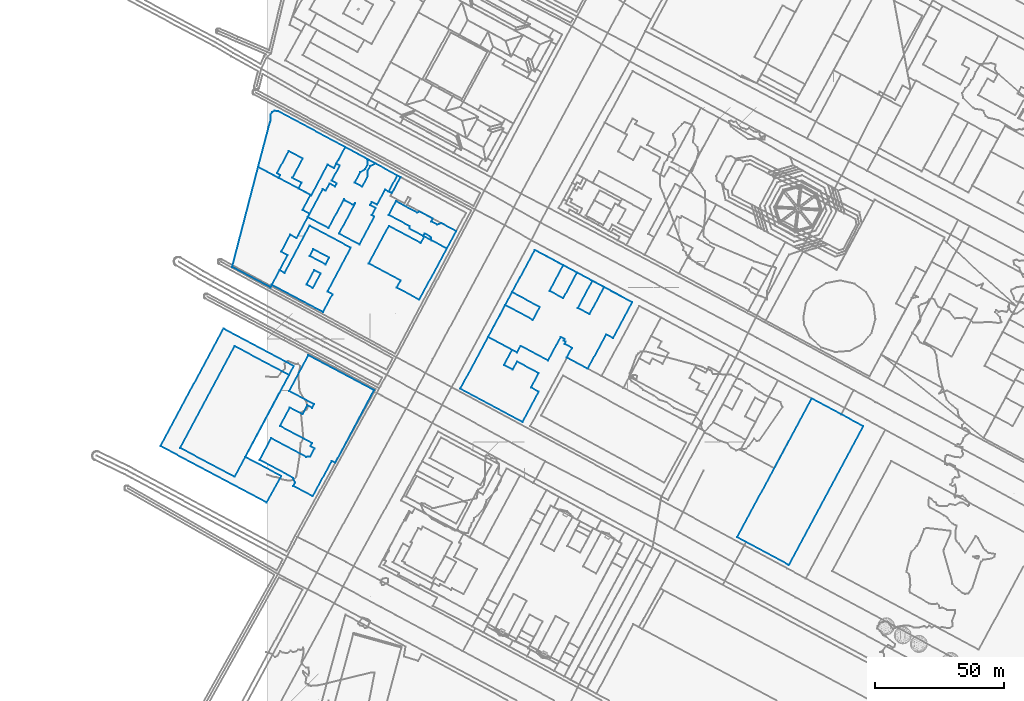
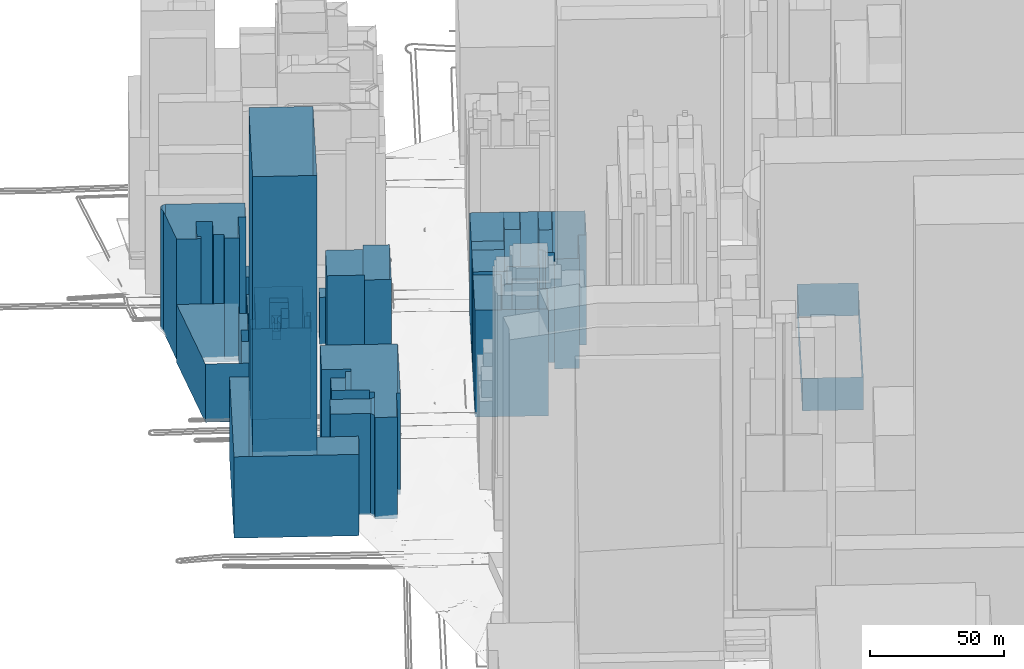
# Not in any storey, part 23 of 80: 17 walls.
"""IFC4 building model written with IfcOpenShell, lengths in metres."""

from ifc_helpers import new_model, si_unit, frame, origin_with_axes, place, context, subcontext, project, spatial, polygons, element, save


model = new_model("IFC4")

# Units and contexts
model_context = context("Model", 3, precision=1e-05, world=origin_with_axes())
body_context = subcontext(model_context, "Body", "Model", "MODEL_VIEW")
ifc_project = project(units=[si_unit("AREAUNIT", "SQUARE_METRE"), si_unit("LENGTHUNIT", "METRE")], contexts=[model_context])

# Sites, building
site_1_placement = place(None, origin_with_axes())
site_1 = spatial("IfcSite", under=ifc_project, at=site_1_placement, Name="Topoexport Site")
site_2_placement = place(site_1_placement, origin_with_axes())
site_2 = spatial("IfcSite", under=site_1, at=site_2_placement, Name="TPX_BATIMENTS")
building_1_placement = place(site_2_placement, frame((182.6039745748, 162.5591833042, 20.6927717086), z_axis=(0.0, 0.0, 1.0), x_axis=(1.0, 0.0, 0.0)))
building_1 = spatial("IfcBuilding", under=site_2, at=building_1_placement, Name="Batiment 42", CompositionType="ELEMENT")

# Wall
wall_1_placement = place(None, frame((182.6039745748, 162.5591833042, 20.6927717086), z_axis=(0.0, 0.0, 1.0), x_axis=(1.0, 0.0, 0.0)))
element("IfcWall", 1, at=wall_1_placement, inside=building_1, Name="Mur 0", context=body_context, shape_type="Tessellation", body=[
    polygons([(0.0, 0.0, 0.0), (20.0810169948, -10.7688576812, 0.0), (48.9829273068, 43.1023540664, 0.0), (28.9020091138, 53.8711326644, 0.0), (0.0, 0.0, 14.8999996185), (20.0810169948, -10.7688576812, 14.8999996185), (48.9829273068, 43.1023540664, 14.8999996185), (28.9020091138, 53.8711326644, 14.8999996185)], [[[6, 5, 2]], [[2, 5, 1]], [[7, 6, 3]], [[3, 6, 2]], [[5, 8, 1]], [[1, 8, 4]], [[8, 7, 4]], [[4, 7, 3]]]),
])

# Building
building_2_placement = place(site_2_placement, frame((85.8984085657, 240.2837612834, 20.6241127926), z_axis=(0.0, 0.0, 1.0), x_axis=(1.0, 0.0, 0.0)))
building_2 = spatial("IfcBuilding", under=site_2, at=building_2_placement, Name="Batiment 76", CompositionType="ELEMENT")

# Wall
wall_2_placement = place(None, frame((85.8984085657, 240.2837612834, 20.6241127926), z_axis=(0.0, 0.0, 1.0), x_axis=(1.0, 0.0, 0.0)))
element("IfcWall", 2, at=wall_2_placement, inside=building_2, Name="Mur 0", context=body_context, shape_type="Tessellation", body=[
    polygons([(0.0, 0.0, 0.0), (11.2465195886, -6.0311397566, 0.0), (12.6512037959, -3.4168984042, 0.0), (23.2861681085, -9.1220554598, 0.0), (28.2024169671, 0.0388994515, 0.0), (29.7229034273, -0.776106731, 0.0), (29.3592670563, -1.4464661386, 0.0), (30.1152258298, -1.848467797, 0.0), (29.6773030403, -2.6640194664, 0.0), (32.5654494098, -4.2180905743, 0.0), (30.5658357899, -7.9383700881, 0.0), (38.6867515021, -12.3182352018, 0.0), (45.8336301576, 1.0208901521, 0.0), (48.5348020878, -0.4243246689, 0.0), (55.9958034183, 13.4846763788, 0.0), (18.1278687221, 33.8059517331, 0.0), (0.0, 0.0, 50.0), (11.2465195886, -6.0311397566, 50.0), (12.6512037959, -3.4168984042, 50.0), (23.2861681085, -9.1220554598, 50.0), (28.2024169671, 0.0388994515, 50.0), (29.7229034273, -0.776106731, 50.0), (29.3592670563, -1.4464661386, 50.0), (30.1152258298, -1.848467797, 50.0), (29.6773030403, -2.6640194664, 50.0), (32.5654494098, -4.2180905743, 50.0), (30.5658357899, -7.9383700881, 50.0), (38.6867515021, -12.3182352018, 50.0), (45.8336301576, 1.0208901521, 50.0), (48.5348020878, -0.4243246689, 50.0), (55.9958034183, 13.4846763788, 50.0), (18.1278687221, 33.8059517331, 50.0)], [[[18, 17, 2]], [[2, 17, 1]], [[19, 18, 3]], [[3, 18, 2]], [[20, 19, 4]], [[4, 19, 3]], [[21, 20, 5]], [[5, 20, 4]], [[22, 21, 6]], [[6, 21, 5]], [[23, 22, 7]], [[7, 22, 6]], [[24, 23, 8]], [[8, 23, 7]], [[25, 24, 9]], [[9, 24, 8]], [[26, 25, 10]], [[10, 25, 9]], [[27, 26, 11]], [[11, 26, 10]], [[28, 27, 12]], [[12, 27, 11]], [[29, 28, 13]], [[13, 28, 12]], [[30, 29, 14]], [[14, 29, 13]], [[31, 30, 15]], [[15, 30, 14]], [[17, 32, 1]], [[1, 32, 16]], [[32, 31, 16]], [[16, 31, 15]]]),
])

# Building
building_3_placement = place(site_2_placement, frame((85.8984085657, 240.2837612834, 20.6241127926), z_axis=(0.0, 0.0, 1.0), x_axis=(1.0, 0.0, 0.0)))
building_3 = spatial("IfcBuilding", under=site_2, at=building_3_placement, Name="Batiment 77", CompositionType="ELEMENT")

# Wall
wall_3_placement = place(None, frame((85.8984085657, 240.2837612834, 20.6241127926), z_axis=(0.0, 0.0, 1.0), x_axis=(1.0, 0.0, 0.0)))
element("IfcWall", 3, at=wall_3_placement, inside=building_3, Name="Mur 0", context=body_context, shape_type="Tessellation", body=[
    polygons([(0.0, 0.0, 0.0), (11.2465195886, -6.0311397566, 0.0), (12.6512037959, -3.4168984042, 0.0), (23.2861681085, -9.1220554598, 0.0), (28.2024169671, 0.0388994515, 0.0), (29.7229034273, -0.776106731, 0.0), (29.3592670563, -1.4464661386, 0.0), (30.1152258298, -1.848467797, 0.0), (29.6773030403, -2.6640194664, 0.0), (32.5654494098, -4.2180905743, 0.0), (30.5658357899, -7.9383700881, 0.0), (38.6867515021, -12.3182352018, 0.0), (45.8336301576, 1.0208901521, 0.0), (48.5348020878, -0.4243246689, 0.0), (55.9958034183, 13.4846763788, 0.0), (45.0379209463, 19.3747728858, 0.0), (39.3945655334, 8.8619853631, 0.0), (34.8585594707, 11.2961922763, 0.0), (40.5020482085, 21.7978755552, 0.0), (34.5220457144, 25.003566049, 0.0), (29.1928346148, 15.0606509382, 0.0), (23.8498507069, 17.92958022, 0.0), (29.1875069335, 27.8725894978, 0.0), (18.1278687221, 33.8059517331, 0.0), (9.3283721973, 17.3945398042, 0.0), (20.0566635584, 11.6460536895, 0.0), (17.387953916, 6.6634513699, 0.0), (6.6595287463, 12.4230421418, 0.0), (0.0, 0.0, 50.0), (11.2465195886, -6.0311397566, 50.0), (12.6512037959, -3.4168984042, 50.0), (23.2861681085, -9.1220554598, 50.0), (28.2024169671, 0.0388994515, 50.0), (29.7229034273, -0.776106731, 50.0), (29.3592670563, -1.4464661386, 50.0), (30.1152258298, -1.848467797, 50.0), (29.6773030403, -2.6640194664, 50.0), (32.5654494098, -4.2180905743, 50.0), (30.5658357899, -7.9383700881, 50.0), (38.6867515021, -12.3182352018, 50.0), (45.8336301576, 1.0208901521, 50.0), (48.5348020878, -0.4243246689, 50.0), (55.9958034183, 13.4846763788, 50.0), (45.0379209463, 19.3747728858, 50.0), (39.3945655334, 8.8619853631, 50.0), (34.8585594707, 11.2961922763, 50.0), (40.5020482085, 21.7978755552, 50.0), (34.5220457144, 25.003566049, 50.0), (29.1928346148, 15.0606509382, 50.0), (23.8498507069, 17.92958022, 50.0), (29.1875069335, 27.8725894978, 50.0), (18.1278687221, 33.8059517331, 50.0), (9.3283721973, 17.3945398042, 50.0), (20.0566635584, 11.6460536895, 50.0), (17.387953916, 6.6634513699, 50.0), (6.6595287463, 12.4230421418, 50.0)], [[[30, 29, 2]], [[2, 29, 1]], [[31, 30, 3]], [[3, 30, 2]], [[32, 31, 4]], [[4, 31, 3]], [[33, 32, 5]], [[5, 32, 4]], [[34, 33, 6]], [[6, 33, 5]], [[35, 34, 7]], [[7, 34, 6]], [[36, 35, 8]], [[8, 35, 7]], [[37, 36, 9]], [[9, 36, 8]], [[38, 37, 10]], [[10, 37, 9]], [[39, 38, 11]], [[11, 38, 10]], [[40, 39, 12]], [[12, 39, 11]], [[41, 40, 13]], [[13, 40, 12]], [[42, 41, 14]], [[14, 41, 13]], [[43, 42, 15]], [[15, 42, 14]], [[44, 43, 16]], [[16, 43, 15]], [[45, 44, 17]], [[17, 44, 16]], [[46, 45, 18]], [[18, 45, 17]], [[47, 46, 19]], [[19, 46, 18]], [[48, 47, 20]], [[20, 47, 19]], [[49, 48, 21]], [[21, 48, 20]], [[50, 49, 22]], [[22, 49, 21]], [[51, 50, 23]], [[23, 50, 22]], [[52, 51, 24]], [[24, 51, 23]], [[53, 52, 25]], [[25, 52, 24]], [[54, 53, 26]], [[26, 53, 25]], [[55, 54, 27]], [[27, 54, 26]], [[29, 56, 1]], [[1, 56, 28]], [[56, 55, 28]], [[28, 55, 27]]]),
])

# Building
building_4_placement = place(site_2_placement, frame((-13.4692579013, 267.507853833, 20.5235292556), z_axis=(0.0, 0.0, 1.0), x_axis=(1.0, 0.0, 0.0)))
building_4 = spatial("IfcBuilding", under=site_2, at=building_4_placement, Name="Batiment 154", CompositionType="ELEMENT")

# Wall
wall_4_placement = place(None, frame((-13.4692579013, 267.507853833, 20.5235292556), z_axis=(0.0, 0.0, 1.0), x_axis=(1.0, 0.0, 0.0)))
element("IfcWall", 4, at=wall_4_placement, inside=building_4, Name="Mur 0", context=body_context, shape_type="Tessellation", body=[
    polygons([(0.0, 0.0, 0.0), (14.8729310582, -7.9321108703, 0.0), (21.5236253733, 4.535158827, 0.0), (19.0179048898, 5.871663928, 0.0), (22.5456521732, 12.4851249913, 0.0), (25.0429308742, 11.1485231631, 0.0), (30.1073251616, 20.644198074, 0.0), (27.3212769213, 22.1328790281, 0.0), (30.4109499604, 27.9418994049, 0.0), (10.0850586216, 38.7750178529, 0.0), (0.0, 0.0, 26.5), (14.8729310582, -7.9321108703, 26.5), (21.5236253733, 4.535158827, 26.5), (19.0179048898, 5.871663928, 26.5), (22.5456521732, 12.4851249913, 26.5), (25.0429308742, 11.1485231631, 26.5), (30.1073251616, 20.644198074, 26.5), (27.3212769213, 22.1328790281, 26.5), (30.4109499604, 27.9418994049, 26.5), (10.0850586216, 38.7750178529, 26.5)], [[[12, 11, 2]], [[2, 11, 1]], [[13, 12, 3]], [[3, 12, 2]], [[14, 13, 4]], [[4, 13, 3]], [[15, 14, 5]], [[5, 14, 4]], [[16, 15, 6]], [[6, 15, 5]], [[17, 16, 7]], [[7, 16, 6]], [[18, 17, 8]], [[8, 17, 7]], [[19, 18, 9]], [[9, 18, 8]], [[11, 20, 1]], [[1, 20, 10]], [[20, 19, 10]], [[10, 19, 9]]]),
])

# Building
building_5_placement = place(site_2_placement, frame((-3.3841992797, 306.2828716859, 21.8195391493), z_axis=(0.0, 0.0, 1.0), x_axis=(1.0, 0.0, 0.0)))
building_5 = spatial("IfcBuilding", under=site_2, at=building_5_placement, Name="Batiment 155", CompositionType="ELEMENT")

# Wall
wall_5_placement = place(None, frame((-3.3841992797, 306.2828716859, 21.8195391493), z_axis=(0.0, 0.0, 1.0), x_axis=(1.0, 0.0, 0.0)))
element("IfcWall", 5, at=wall_5_placement, inside=building_5, Name="Mur 0", context=body_context, shape_type="Tessellation", body=[
    polygons([(0.0, 0.0, 0.0), (7.9587232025, -4.2375453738, 0.0), (8.5865292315, -3.0534231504, 0.0), (7.3125093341, -2.3798647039, 0.0), (11.8893541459, 6.2108665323, 0.0), (17.3086069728, 3.3094443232, 0.0), (13.3099607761, -4.1865612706, 0.0), (16.8944091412, -6.0989674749, 0.0), (15.6882811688, -8.366718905, 0.0), (20.6318009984, -11.0072048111, 0.0), (26.9684045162, 0.8791195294, 0.0), (29.4571079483, -0.4464745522, 0.0), (33.8274296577, 7.7532955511, 0.0), (7.7846017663, 21.6841879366, 0.0), (6.347319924, 21.8784555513, 0.0), (5.3911895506, 21.3455570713, 0.0), (4.8705322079, 20.3847231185, 0.0), (4.8038334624, 18.1301925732, 0.0), (0.0, 0.0, 54.9000015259), (7.9587232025, -4.2375453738, 54.9000015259), (8.5865292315, -3.0534231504, 54.9000015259), (7.3125093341, -2.3798647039, 54.9000015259), (11.8893541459, 6.2108665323, 54.9000015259), (17.3086069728, 3.3094443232, 54.9000015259), (13.3099607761, -4.1865612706, 54.9000015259), (16.8944091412, -6.0989674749, 54.9000015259), (15.6882811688, -8.366718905, 54.9000015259), (20.6318009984, -11.0072048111, 54.9000015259), (26.9684045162, 0.8791195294, 54.9000015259), (29.4571079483, -0.4464745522, 54.9000015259), (33.8274296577, 7.7532955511, 54.9000015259), (7.7846017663, 21.6841879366, 54.9000015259), (6.347319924, 21.8784555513, 54.9000015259), (5.3911895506, 21.3455570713, 54.9000015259), (4.8705322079, 20.3847231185, 54.9000015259), (4.8038334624, 18.1301925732, 54.9000015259)], [[[20, 19, 2]], [[2, 19, 1]], [[21, 20, 3]], [[3, 20, 2]], [[22, 21, 4]], [[4, 21, 3]], [[23, 22, 5]], [[5, 22, 4]], [[24, 23, 6]], [[6, 23, 5]], [[25, 24, 7]], [[7, 24, 6]], [[26, 25, 8]], [[8, 25, 7]], [[27, 26, 9]], [[9, 26, 8]], [[28, 27, 10]], [[10, 27, 9]], [[29, 28, 11]], [[11, 28, 10]], [[30, 29, 12]], [[12, 29, 11]], [[31, 30, 13]], [[13, 30, 12]], [[32, 31, 14]], [[14, 31, 13]], [[33, 32, 15]], [[15, 32, 14]], [[34, 33, 16]], [[16, 33, 15]], [[35, 34, 17]], [[17, 34, 16]], [[19, 36, 1]], [[1, 36, 18]], [[36, 35, 18]], [[18, 35, 17]]]),
])

# Building
building_6_placement = place(site_2_placement, frame((47.3240526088, 296.7460494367, 22.6341458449), z_axis=(0.0, 0.0, 1.0), x_axis=(1.0, 0.0, 0.0)))
building_6 = spatial("IfcBuilding", under=site_2, at=building_6_placement, Name="Batiment 156", CompositionType="ELEMENT")

# Wall
wall_6_placement = place(None, frame((47.3240526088, 296.7460494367, 22.6341458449), z_axis=(0.0, 0.0, 1.0), x_axis=(1.0, 0.0, 0.0)))
element("IfcWall", 6, at=wall_6_placement, inside=building_6, Name="Mur 0", context=body_context, shape_type="Tessellation", body=[
    polygons([(0.0, 0.0, 0.0), (1.2145569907, -0.6409345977, 0.0), (4.5862716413, 5.5932606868, 0.0), (3.3375678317, 6.267105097, 0.0), (0.0, 0.0, 4.0), (1.2145569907, -0.6409345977, 4.0), (4.5862716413, 5.5932606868, 4.0), (3.3375678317, 6.267105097, 4.0)], [[[6, 5, 2]], [[2, 5, 1]], [[7, 6, 3]], [[3, 6, 2]], [[5, 8, 1]], [[1, 8, 4]], [[8, 7, 4]], [[4, 7, 3]]]),
])

# Building
building_7_placement = place(site_2_placement, frame((15.9441565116, 286.8450369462, 20.647913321), z_axis=(0.0, 0.0, 1.0), x_axis=(1.0, 0.0, 0.0)))
building_7 = spatial("IfcBuilding", under=site_2, at=building_7_placement, Name="Batiment 157", CompositionType="ELEMENT")

# Wall
wall_7_placement = place(None, frame((15.9441565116, 286.8450369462, 20.647913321), z_axis=(0.0, 0.0, 1.0), x_axis=(1.0, 0.0, 0.0)))
element("IfcWall", 7, at=wall_7_placement, inside=building_7, Name="Mur 0", context=body_context, shape_type="Tessellation", body=[
    polygons([(0.0, 0.0, 0.0), (8.0352328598, -4.2810464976, 0.0), (14.0662474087, 7.0244198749, 0.0), (14.5213100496, 6.363565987, 0.0), (17.3582596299, 4.8532774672, 0.0), (18.4068488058, 5.4205597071, 0.0), (12.0868715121, -6.4433762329, 0.0), (20.0203200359, -10.6811822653, 0.0), (25.8033972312, 0.1662240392, 0.0), (24.7841247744, 0.7095061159, 0.0), (26.2793412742, 3.5246280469, 0.0), (24.1813290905, 4.6438087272, 0.0), (24.8257532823, 5.8503314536, 0.0), (26.8302782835, 4.7855771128, 0.0), (29.9614850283, 10.6506035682, 0.0), (31.3798960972, 9.9010124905, 0.0), (34.717463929, 16.1681175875, 0.0), (14.4990738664, 27.1911302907, 0.0), (11.0539615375, 20.7340482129, 0.0), (12.3874511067, 20.0278770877, 0.0), (9.2563637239, 14.1517573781, 0.0), (11.2354346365, 13.0978057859, 0.0), (10.5910089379, 11.8912842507, 0.0), (8.3996436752, 13.0537949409, 0.0), (6.9042937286, 10.2497774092, 0.0), (5.7830971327, 10.847390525, 0.0), (0.0, 0.0, 27.3999996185), (8.0352328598, -4.2810464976, 27.3999996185), (14.0662474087, 7.0244198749, 27.3999996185), (14.5213100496, 6.363565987, 27.3999996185), (17.3582596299, 4.8532774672, 27.3999996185), (18.4068488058, 5.4205597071, 27.3999996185), (12.0868715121, -6.4433762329, 27.3999996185), (20.0203200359, -10.6811822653, 27.3999996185), (25.8033972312, 0.1662240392, 27.3999996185), (24.7841247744, 0.7095061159, 27.3999996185), (26.2793412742, 3.5246280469, 27.3999996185), (24.1813290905, 4.6438087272, 27.3999996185), (24.8257532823, 5.8503314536, 27.3999996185), (26.8302782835, 4.7855771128, 27.3999996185), (29.9614850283, 10.6506035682, 27.3999996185), (31.3798960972, 9.9010124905, 27.3999996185), (34.717463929, 16.1681175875, 27.3999996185), (14.4990738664, 27.1911302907, 27.3999996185), (11.0539615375, 20.7340482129, 27.3999996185), (12.3874511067, 20.0278770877, 27.3999996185), (9.2563637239, 14.1517573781, 27.3999996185), (11.2354346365, 13.0978057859, 27.3999996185), (10.5910089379, 11.8912842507, 27.3999996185), (8.3996436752, 13.0537949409, 27.3999996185), (6.9042937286, 10.2497774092, 27.3999996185), (5.7830971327, 10.847390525, 27.3999996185)], [[[28, 27, 2]], [[2, 27, 1]], [[29, 28, 3]], [[3, 28, 2]], [[30, 29, 4]], [[4, 29, 3]], [[31, 30, 5]], [[5, 30, 4]], [[32, 31, 6]], [[6, 31, 5]], [[33, 32, 7]], [[7, 32, 6]], [[34, 33, 8]], [[8, 33, 7]], [[35, 34, 9]], [[9, 34, 8]], [[36, 35, 10]], [[10, 35, 9]], [[37, 36, 11]], [[11, 36, 10]], [[38, 37, 12]], [[12, 37, 11]], [[39, 38, 13]], [[13, 38, 12]], [[40, 39, 14]], [[14, 39, 13]], [[41, 40, 15]], [[15, 40, 14]], [[42, 41, 16]], [[16, 41, 15]], [[43, 42, 17]], [[17, 42, 16]], [[44, 43, 18]], [[18, 43, 17]], [[45, 44, 19]], [[19, 44, 18]], [[46, 45, 20]], [[20, 45, 19]], [[47, 46, 21]], [[21, 46, 20]], [[48, 47, 22]], [[22, 47, 21]], [[49, 48, 23]], [[23, 48, 22]], [[50, 49, 24]], [[24, 49, 23]], [[51, 50, 25]], [[25, 50, 24]], [[27, 52, 1]], [[1, 52, 26]], [[52, 51, 26]], [[26, 51, 25]]]),
])

# Building
building_8_placement = place(site_2_placement, frame((15.9441565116, 286.8450369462, 20.647913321), z_axis=(0.0, 0.0, 1.0), x_axis=(1.0, 0.0, 0.0)))
building_8 = spatial("IfcBuilding", under=site_2, at=building_8_placement, Name="Batiment 158", CompositionType="ELEMENT")

# Wall
wall_8_placement = place(None, frame((15.9441565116, 286.8450369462, 20.647913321), z_axis=(0.0, 0.0, 1.0), x_axis=(1.0, 0.0, 0.0)))
element("IfcWall", 8, at=wall_8_placement, inside=building_8, Name="Mur 0", context=body_context, shape_type="Tessellation", body=[
    polygons([(0.0, 0.0, 0.0), (8.0352328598, -4.2810464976, 0.0), (14.0662474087, 7.0244198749, 0.0), (14.5213100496, 6.363565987, 0.0), (17.3582596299, 4.8532774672, 0.0), (18.4068488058, 5.4205597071, 0.0), (12.0868715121, -6.4433762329, 0.0), (20.0203200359, -10.6811822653, 0.0), (25.8033972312, 0.1662240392, 0.0), (24.7841247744, 0.7095061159, 0.0), (26.2793412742, 3.5246280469, 0.0), (24.1813290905, 4.6438087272, 0.0), (24.8257532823, 5.8503314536, 0.0), (26.8302782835, 4.7855771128, 0.0), (29.9614850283, 10.6506035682, 0.0), (31.3798960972, 9.9010124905, 0.0), (34.717463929, 16.1681175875, 0.0), (26.2477906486, 20.7882623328, 0.0), (24.2412699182, 19.8434861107, 0.0), (23.2746353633, 18.0337020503, 0.0), (23.2917057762, 15.8356544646, 0.0), (21.13557285, 11.7805123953, 0.0), (18.213707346, 13.3342229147, 0.0), (20.3782815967, 17.3894620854, 0.0), (22.2214757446, 18.5876933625, 0.0), (23.1881104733, 20.3974772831, 0.0), (23.1045489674, 22.5059351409, 0.0), (14.4990738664, 27.1911302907, 0.0), (11.0539615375, 20.7340482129, 0.0), (12.3874511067, 20.0278770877, 0.0), (9.2563637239, 14.1517573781, 0.0), (11.2354346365, 13.0978057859, 0.0), (10.5910089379, 11.8912842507, 0.0), (8.3996436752, 13.0537949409, 0.0), (6.9042937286, 10.2497774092, 0.0), (5.7830971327, 10.847390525, 0.0), (0.0, 0.0, 27.3999996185), (8.0352328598, -4.2810464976, 27.3999996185), (14.0662474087, 7.0244198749, 27.3999996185), (14.5213100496, 6.363565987, 27.3999996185), (17.3582596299, 4.8532774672, 27.3999996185), (18.4068488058, 5.4205597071, 27.3999996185), (12.0868715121, -6.4433762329, 27.3999996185), (20.0203200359, -10.6811822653, 27.3999996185), (25.8033972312, 0.1662240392, 27.3999996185), (24.7841247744, 0.7095061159, 27.3999996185), (26.2793412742, 3.5246280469, 27.3999996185), (24.1813290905, 4.6438087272, 27.3999996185), (24.8257532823, 5.8503314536, 27.3999996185), (26.8302782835, 4.7855771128, 27.3999996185), (29.9614850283, 10.6506035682, 27.3999996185), (31.3798960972, 9.9010124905, 27.3999996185), (34.717463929, 16.1681175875, 27.3999996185), (26.2477906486, 20.7882623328, 27.3999996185), (24.2412699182, 19.8434861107, 27.3999996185), (23.2746353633, 18.0337020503, 27.3999996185), (23.2917057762, 15.8356544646, 27.3999996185), (21.13557285, 11.7805123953, 27.3999996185), (18.213707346, 13.3342229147, 27.3999996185), (20.3782815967, 17.3894620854, 27.3999996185), (22.2214757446, 18.5876933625, 27.3999996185), (23.1881104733, 20.3974772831, 27.3999996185), (23.1045489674, 22.5059351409, 27.3999996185), (14.4990738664, 27.1911302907, 27.3999996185), (11.0539615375, 20.7340482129, 27.3999996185), (12.3874511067, 20.0278770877, 27.3999996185), (9.2563637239, 14.1517573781, 27.3999996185), (11.2354346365, 13.0978057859, 27.3999996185), (10.5910089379, 11.8912842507, 27.3999996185), (8.3996436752, 13.0537949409, 27.3999996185), (6.9042937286, 10.2497774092, 27.3999996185), (5.7830971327, 10.847390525, 27.3999996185)], [[[38, 37, 2]], [[2, 37, 1]], [[39, 38, 3]], [[3, 38, 2]], [[40, 39, 4]], [[4, 39, 3]], [[41, 40, 5]], [[5, 40, 4]], [[42, 41, 6]], [[6, 41, 5]], [[43, 42, 7]], [[7, 42, 6]], [[44, 43, 8]], [[8, 43, 7]], [[45, 44, 9]], [[9, 44, 8]], [[46, 45, 10]], [[10, 45, 9]], [[47, 46, 11]], [[11, 46, 10]], [[48, 47, 12]], [[12, 47, 11]], [[49, 48, 13]], [[13, 48, 12]], [[50, 49, 14]], [[14, 49, 13]], [[51, 50, 15]], [[15, 50, 14]], [[52, 51, 16]], [[16, 51, 15]], [[53, 52, 17]], [[17, 52, 16]], [[54, 53, 18]], [[18, 53, 17]], [[55, 54, 19]], [[19, 54, 18]], [[56, 55, 20]], [[20, 55, 19]], [[57, 56, 21]], [[21, 56, 20]], [[58, 57, 22]], [[22, 57, 21]], [[59, 58, 23]], [[23, 58, 22]], [[60, 59, 24]], [[24, 59, 23]], [[61, 60, 25]], [[25, 60, 24]], [[62, 61, 26]], [[26, 61, 25]], [[63, 62, 27]], [[27, 62, 26]], [[64, 63, 28]], [[28, 63, 27]], [[65, 64, 29]], [[29, 64, 28]], [[66, 65, 30]], [[30, 65, 29]], [[67, 66, 31]], [[31, 66, 30]], [[68, 67, 32]], [[32, 67, 31]], [[69, 68, 33]], [[33, 68, 32]], [[70, 69, 34]], [[34, 69, 33]], [[71, 70, 35]], [[35, 70, 34]], [[37, 72, 1]], [[1, 72, 36]], [[72, 71, 36]], [[36, 71, 35]]]),
])

# Building
building_9_placement = place(site_2_placement, frame((34.1578638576, 300.1792598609, 21.4353953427), z_axis=(0.0, 0.0, 1.0), x_axis=(1.0, 0.0, 0.0)))
building_9 = spatial("IfcBuilding", under=site_2, at=building_9_placement, Name="Batiment 159", CompositionType="ELEMENT")

# Wall
wall_9_placement = place(None, frame((34.1578638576, 300.1792598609, 21.4353953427), z_axis=(0.0, 0.0, 1.0), x_axis=(1.0, 0.0, 0.0)))
element("IfcWall", 9, at=wall_9_placement, inside=building_9, Name="Mur 0", context=body_context, shape_type="Tessellation", body=[
    polygons([(0.0, 0.0, 0.0), (2.921865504, -1.5537105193, 0.0), (5.0779984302, 2.5014315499, 0.0), (5.0609280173, 4.6994791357, 0.0), (6.0275625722, 6.509263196, 0.0), (8.0340833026, 7.4540394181, 0.0), (4.8908416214, 9.1717122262, 0.0), (4.9744031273, 7.0632543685, 0.0), (4.0077683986, 5.2534704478, 0.0), (2.1645742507, 4.0552391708, 0.0), (0.0, 0.0, 4.0), (2.921865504, -1.5537105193, 4.0), (5.0779984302, 2.5014315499, 4.0), (5.0609280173, 4.6994791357, 4.0), (6.0275625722, 6.509263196, 4.0), (8.0340833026, 7.4540394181, 4.0), (4.8908416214, 9.1717122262, 4.0), (4.9744031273, 7.0632543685, 4.0), (4.0077683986, 5.2534704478, 4.0), (2.1645742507, 4.0552391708, 4.0)], [[[12, 11, 2]], [[2, 11, 1]], [[13, 12, 3]], [[3, 12, 2]], [[14, 13, 4]], [[4, 13, 3]], [[15, 14, 5]], [[5, 14, 4]], [[16, 15, 6]], [[6, 15, 5]], [[17, 16, 7]], [[7, 16, 6]], [[18, 17, 8]], [[8, 17, 7]], [[19, 18, 9]], [[9, 18, 8]], [[11, 20, 1]], [[1, 20, 10]], [[20, 19, 10]], [[10, 19, 9]]]),
])

# Building
building_10_placement = place(site_2_placement, frame((47.2941529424, 287.6862653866, 22.3142509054), z_axis=(0.0, 0.0, 1.0), x_axis=(1.0, 0.0, 0.0)))
building_10 = spatial("IfcBuilding", under=site_2, at=building_10_placement, Name="Batiment 165", CompositionType="ELEMENT")

# Wall
wall_10_placement = place(None, frame((47.2941529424, 287.6862653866, 22.3142509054), z_axis=(0.0, 0.0, 1.0), x_axis=(1.0, 0.0, 0.0)))
element("IfcWall", 10, at=wall_10_placement, inside=building_10, Name="Mur 0", context=body_context, shape_type="Tessellation", body=[
    polygons([(0.0, 0.0, 0.0), (8.2307944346, -4.4008675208, 0.0), (8.2421345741, -5.3777339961, 0.0), (13.4574445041, -8.1593656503, 0.0), (13.9699153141, -7.2208270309, 0.0), (16.3907258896, -8.5138902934, 0.0), (16.6767950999, -9.8872482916, 0.0), (22.5887243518, -13.0493648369, 0.0), (26.2412137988, -6.2789916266, 0.0), (20.3292881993, -3.1168780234, 0.0), (18.9358097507, -3.7880894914, 0.0), (16.5150002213, -2.4950270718, 0.0), (17.1100684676, -1.400097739, 0.0), (11.8946328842, 1.3926320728, 0.0), (11.0899102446, 0.905893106, 0.0), (2.8591197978, 5.3067574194, 0.0), (0.0, 0.0, 21.5), (8.2307944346, -4.4008675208, 21.5), (8.2421345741, -5.3777339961, 21.5), (13.4574445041, -8.1593656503, 21.5), (13.9699153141, -7.2208270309, 21.5), (16.3907258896, -8.5138902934, 21.5), (16.6767950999, -9.8872482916, 21.5), (22.5887243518, -13.0493648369, 21.5), (26.2412137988, -6.2789916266, 21.5), (20.3292881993, -3.1168780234, 21.5), (18.9358097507, -3.7880894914, 21.5), (16.5150002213, -2.4950270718, 21.5), (17.1100684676, -1.400097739, 21.5), (11.8946328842, 1.3926320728, 21.5), (11.0899102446, 0.905893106, 21.5), (2.8591197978, 5.3067574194, 21.5)], [[[18, 17, 2]], [[2, 17, 1]], [[19, 18, 3]], [[3, 18, 2]], [[20, 19, 4]], [[4, 19, 3]], [[21, 20, 5]], [[5, 20, 4]], [[22, 21, 6]], [[6, 21, 5]], [[23, 22, 7]], [[7, 22, 6]], [[24, 23, 8]], [[8, 23, 7]], [[25, 24, 9]], [[9, 24, 8]], [[26, 25, 10]], [[10, 25, 9]], [[27, 26, 11]], [[11, 26, 10]], [[28, 27, 12]], [[12, 27, 11]], [[29, 28, 13]], [[13, 28, 12]], [[30, 29, 14]], [[14, 29, 13]], [[31, 30, 15]], [[15, 30, 14]], [[17, 32, 1]], [[1, 32, 16]], [[32, 31, 16]], [[16, 31, 15]]]),
])

# Building
building_11_placement = place(site_2_placement, frame((39.5439098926, 268.8668109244, 21.829392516), z_axis=(0.0, 0.0, 1.0), x_axis=(1.0, 0.0, 0.0)))
building_11 = spatial("IfcBuilding", under=site_2, at=building_11_placement, Name="Batiment 168", CompositionType="ELEMENT")

# Wall
wall_11_placement = place(None, frame((39.5439098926, 268.8668109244, 21.829392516), z_axis=(0.0, 0.0, 1.0), x_axis=(1.0, 0.0, 0.0)))
element("IfcWall", 11, at=wall_11_placement, inside=building_11, Name="Mur 0", context=body_context, shape_type="Tessellation", body=[
    polygons([(0.0, 0.0, 0.0), (12.3759530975, -6.6176192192, 0.0), (10.8802187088, -9.3883399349, 0.0), (19.6376943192, -14.0717489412, 0.0), (30.3389674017, 5.7700896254, 0.0), (21.5815076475, 10.4534858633, 0.0), (20.2344833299, 7.9620457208, 0.0), (7.8585467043, 14.5796516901, 0.0), (0.0, 0.0, 45.9000015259), (12.3759530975, -6.6176192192, 45.9000015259), (10.8802187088, -9.3883399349, 45.9000015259), (19.6376943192, -14.0717489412, 45.9000015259), (30.3389674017, 5.7700896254, 45.9000015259), (21.5815076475, 10.4534858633, 45.9000015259), (20.2344833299, 7.9620457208, 45.9000015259), (7.8585467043, 14.5796516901, 45.9000015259)], [[[10, 9, 2]], [[2, 9, 1]], [[11, 10, 3]], [[3, 10, 2]], [[12, 11, 4]], [[4, 11, 3]], [[13, 12, 5]], [[5, 12, 4]], [[14, 13, 6]], [[6, 13, 5]], [[15, 14, 7]], [[7, 14, 6]], [[9, 16, 1]], [[1, 16, 8]], [[16, 15, 8]], [[8, 15, 7]]]),
])

# Building
building_12_placement = place(site_2_placement, frame((92.5579373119, 252.7068034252, 21.8391315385), z_axis=(0.0, 0.0, 1.0), x_axis=(1.0, 0.0, 0.0)))
building_12 = spatial("IfcBuilding", under=site_2, at=building_12_placement, Name="Batiment 169", CompositionType="ELEMENT")

# Wall
wall_12_placement = place(None, frame((92.5579373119, 252.7068034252, 21.8391315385), z_axis=(0.0, 0.0, 1.0), x_axis=(1.0, 0.0, 0.0)))
element("IfcWall", 12, at=wall_12_placement, inside=building_12, Name="Mur 0", context=body_context, shape_type="Tessellation", body=[
    polygons([(0.0, 0.0, 0.0), (10.7284251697, -5.759590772, 0.0), (13.3971348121, -0.7769884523, 0.0), (2.6688434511, 4.9714976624, 0.0), (0.0, 0.0, 4.0), (10.7284251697, -5.759590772, 4.0), (13.3971348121, -0.7769884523, 4.0), (2.6688434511, 4.9714976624, 4.0)], [[[6, 5, 2]], [[2, 5, 1]], [[7, 6, 3]], [[3, 6, 2]], [[5, 8, 1]], [[1, 8, 4]], [[8, 7, 4]], [[4, 7, 3]]]),
])

# Building
building_13_placement = place(site_2_placement, frame((75.1238683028, 220.2079028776, 20.5185789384), z_axis=(0.0, 0.0, 1.0), x_axis=(1.0, 0.0, 0.0)))
building_13 = spatial("IfcBuilding", under=site_2, at=building_13_placement, Name="Batiment 170", CompositionType="ELEMENT")

# Wall
wall_13_placement = place(None, frame((75.1238683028, 220.2079028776, 20.5185789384), z_axis=(0.0, 0.0, 1.0), x_axis=(1.0, 0.0, 0.0)))
element("IfcWall", 13, at=wall_13_placement, inside=building_13, Name="Mur 0", context=body_context, shape_type="Tessellation", body=[
    polygons([(0.0, 0.0, 0.0), (24.1325284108, -12.9425374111, 0.0), (30.4615452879, -1.1339469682, 0.0), (27.4290071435, 0.4961679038, 0.0), (30.411754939, 6.0597342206, 0.0), (22.0193408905, 10.5585915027, 0.0), (20.3502373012, 7.4527804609, 0.0), (16.9270008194, 9.2893047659, 0.0), (20.0504016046, 15.09874989, 0.0), (10.7745402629, 20.0758584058, 0.0), (0.0, 0.0, 48.5999984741), (24.1325284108, -12.9425374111, 48.5999984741), (30.4615452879, -1.1339469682, 48.5999984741), (27.4290071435, 0.4961679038, 48.5999984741), (30.411754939, 6.0597342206, 48.5999984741), (22.0193408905, 10.5585915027, 48.5999984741), (20.3502373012, 7.4527804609, 48.5999984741), (16.9270008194, 9.2893047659, 48.5999984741), (20.0504016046, 15.09874989, 48.5999984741), (10.7745402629, 20.0758584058, 48.5999984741)], [[[12, 11, 2]], [[2, 11, 1]], [[13, 12, 3]], [[3, 12, 2]], [[14, 13, 4]], [[4, 13, 3]], [[15, 14, 5]], [[5, 14, 4]], [[16, 15, 6]], [[6, 15, 5]], [[17, 16, 7]], [[7, 16, 6]], [[18, 17, 8]], [[8, 17, 7]], [[19, 18, 9]], [[9, 18, 8]], [[11, 20, 1]], [[1, 20, 10]], [[20, 19, 10]], [[10, 19, 9]]]),
])

# Building
building_14_placement = place(site_2_placement, frame((1.9323894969, 260.5699769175, 20.5582452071), z_axis=(0.0, 0.0, 1.0), x_axis=(1.0, 0.0, 0.0)))
building_14 = spatial("IfcBuilding", under=site_2, at=building_14_placement, Name="Batiment 171", CompositionType="ELEMENT")

# Wall
wall_14_placement = place(None, frame((1.9323894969, 260.5699769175, 20.5582452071), z_axis=(0.0, 0.0, 1.0), x_axis=(1.0, 0.0, 0.0)))
element("IfcWall", 14, at=wall_14_placement, inside=building_14, Name="Mur 0", context=body_context, shape_type="Tessellation", body=[
    polygons([(0.0, 0.0, 0.0), (19.884421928, -10.6050822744, 0.0), (23.5608715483, -3.7123317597, 0.0), (21.6242486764, -2.6800914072, 0.0), (30.7036559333, 14.3562056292, 0.0), (14.6755029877, 22.9076776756, 0.0), (4.9268330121, 4.6201840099, 0.0), (3.015664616, 5.6416221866, 0.0), (13.4801606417, 0.0675826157, 0.0), (16.4710095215, 5.6645136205, 0.0), (18.9427160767, 4.3498225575, 0.0), (15.9519972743, -1.2582102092, 0.0), (14.7016706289, 11.1951078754, 0.0), (16.1062463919, 13.820434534, 0.0), (22.2473331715, 10.5499185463, 0.0), (20.8513279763, 7.9135878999, 0.0), (0.0, 0.0, 41.2000007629), (19.884421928, -10.6050822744, 41.2000007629), (23.5608715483, -3.7123317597, 41.2000007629), (21.6242486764, -2.6800914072, 41.2000007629), (30.7036559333, 14.3562056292, 41.2000007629), (14.6755029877, 22.9076776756, 41.2000007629), (4.9268330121, 4.6201840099, 41.2000007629), (3.015664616, 5.6416221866, 41.2000007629), (13.4801606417, 0.0675826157, 41.2000007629), (16.4710095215, 5.6645136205, 41.2000007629), (18.9427160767, 4.3498225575, 41.2000007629), (15.9519972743, -1.2582102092, 41.2000007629), (14.7016706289, 11.1951078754, 41.2000007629), (16.1062463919, 13.820434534, 41.2000007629), (22.2473331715, 10.5499185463, 41.2000007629), (20.8513279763, 7.9135878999, 41.2000007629)], [[[18, 17, 2]], [[2, 17, 1]], [[19, 18, 3]], [[3, 18, 2]], [[20, 19, 4]], [[4, 19, 3]], [[21, 20, 5]], [[5, 20, 4]], [[22, 21, 6]], [[6, 21, 5]], [[23, 22, 7]], [[7, 22, 6]], [[17, 24, 1]], [[1, 24, 8]], [[24, 23, 8]], [[8, 23, 7]], [[26, 25, 10]], [[10, 25, 9]], [[27, 26, 11]], [[11, 26, 10]], [[25, 28, 9]], [[9, 28, 12]], [[28, 27, 12]], [[12, 27, 11]], [[30, 29, 14]], [[14, 29, 13]], [[31, 30, 15]], [[15, 30, 14]], [[29, 32, 13]], [[13, 32, 16]], [[32, 31, 16]], [[16, 31, 15]]]),
])

# Building
building_15_placement = place(site_2_placement, frame((-2.7913984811, 192.6027250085, 19.7081583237), z_axis=(0.0, 0.0, 1.0), x_axis=(1.0, 0.0, 0.0)))
building_15 = spatial("IfcBuilding", under=site_2, at=building_15_placement, Name="Batiment 172", CompositionType="ELEMENT")

# Wall
wall_15_placement = place(None, frame((-2.7913984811, 192.6027250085, 19.7081583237), z_axis=(0.0, 0.0, 1.0), x_axis=(1.0, 0.0, 0.0)))
element("IfcWall", 15, at=wall_15_placement, inside=building_15, Name="Mur 0", context=body_context, shape_type="Tessellation", body=[
    polygons([(0.0, 0.0, 0.0), (13.0981058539, -7.0089939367, 0.0), (13.7530284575, -8.8887774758, 0.0), (13.1169008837, -10.0840985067, 0.0), (20.6597368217, -14.1155150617, 0.0), (27.9882930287, -0.4080177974, 0.0), (29.3389411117, -1.1361950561, 0.0), (44.4009101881, 27.0273767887, 0.0), (18.926971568, 40.6428730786, 0.0), (11.4828536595, 26.7119974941, 0.0), (21.1066720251, 21.5722969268, 0.0), (20.3713252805, 20.1981878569, 0.0), (18.5196108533, 21.1870066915, 0.0), (16.6440978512, 17.6791392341, 0.0), (11.7089640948, 20.3197258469, 0.0), (7.8920809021, 13.1589018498, 0.0), (20.361463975, 6.4978988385, 0.0), (19.7335216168, 5.3248766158, 0.0), (21.330483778, 4.466328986, 0.0), (19.6699087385, 1.3495336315, 0.0), (17.9922095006, 1.1635335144, 0.0), (4.4864005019, 8.3898337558, 0.0), (0.0, 0.0, 46.2000007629), (13.0981058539, -7.0089939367, 46.2000007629), (13.7530284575, -8.8887774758, 46.2000007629), (13.1169008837, -10.0840985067, 46.2000007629), (20.6597368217, -14.1155150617, 46.2000007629), (27.9882930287, -0.4080177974, 46.2000007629), (29.3389411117, -1.1361950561, 46.2000007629), (44.4009101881, 27.0273767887, 46.2000007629), (18.926971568, 40.6428730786, 46.2000007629), (11.4828536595, 26.7119974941, 46.2000007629), (21.1066720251, 21.5722969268, 46.2000007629), (20.3713252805, 20.1981878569, 46.2000007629), (18.5196108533, 21.1870066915, 46.2000007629), (16.6440978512, 17.6791392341, 46.2000007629), (11.7089640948, 20.3197258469, 46.2000007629), (7.8920809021, 13.1589018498, 46.2000007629), (20.361463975, 6.4978988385, 46.2000007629), (19.7335216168, 5.3248766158, 46.2000007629), (21.330483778, 4.466328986, 46.2000007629), (19.6699087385, 1.3495336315, 46.2000007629), (17.9922095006, 1.1635335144, 46.2000007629), (4.4864005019, 8.3898337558, 46.2000007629)], [[[24, 23, 2]], [[2, 23, 1]], [[25, 24, 3]], [[3, 24, 2]], [[26, 25, 4]], [[4, 25, 3]], [[27, 26, 5]], [[5, 26, 4]], [[28, 27, 6]], [[6, 27, 5]], [[29, 28, 7]], [[7, 28, 6]], [[30, 29, 8]], [[8, 29, 7]], [[31, 30, 9]], [[9, 30, 8]], [[32, 31, 10]], [[10, 31, 9]], [[33, 32, 11]], [[11, 32, 10]], [[34, 33, 12]], [[12, 33, 11]], [[35, 34, 13]], [[13, 34, 12]], [[36, 35, 14]], [[14, 35, 13]], [[37, 36, 15]], [[15, 36, 14]], [[38, 37, 16]], [[16, 37, 15]], [[39, 38, 17]], [[17, 38, 16]], [[40, 39, 18]], [[18, 39, 17]], [[41, 40, 19]], [[19, 40, 18]], [[42, 41, 20]], [[20, 41, 19]], [[43, 42, 21]], [[21, 42, 20]], [[23, 44, 1]], [[1, 44, 22]], [[44, 43, 22]], [[22, 43, 21]]]),
])

# Building
building_16_placement = place(site_2_placement, frame((-33.682086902, 197.2515555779, 19.8467253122), z_axis=(0.0, 0.0, 1.0), x_axis=(1.0, 0.0, 0.0)))
building_16 = spatial("IfcBuilding", under=site_2, at=building_16_placement, Name="Batiment 196", CompositionType="ELEMENT")

# Wall
wall_16_placement = place(None, frame((-33.682086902, 197.2515555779, 19.8467253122), z_axis=(0.0, 0.0, 1.0), x_axis=(1.0, 0.0, 0.0)))
element("IfcWall", 16, at=wall_16_placement, inside=building_16, Name="Mur 0", context=body_context, shape_type="Tessellation", body=[
    polygons([(0.0, 0.0, 0.0), (21.1496172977, -11.2344352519, 0.0), (42.3099874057, 28.2685864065, 0.0), (21.1603180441, 39.5140614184, 0.0), (0.0, 0.0, 162.0), (21.1496172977, -11.2344352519, 162.0), (42.3099874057, 28.2685864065, 162.0), (21.1603180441, 39.5140614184, 162.0)], [[[6, 5, 2]], [[2, 5, 1]], [[7, 6, 3]], [[3, 6, 2]], [[5, 8, 1]], [[1, 8, 4]], [[8, 7, 4]], [[4, 7, 3]]]),
])

# Building
building_17_placement = place(site_2_placement, frame((-41.2792322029, 197.9628221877, 19.7236717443), z_axis=(0.0, 0.0, 1.0), x_axis=(1.0, 0.0, 0.0)))
building_17 = spatial("IfcBuilding", under=site_2, at=building_17_placement, Name="Batiment 197", CompositionType="ELEMENT")

# Wall
wall_17_placement = place(None, frame((-41.2792322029, 197.9628221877, 19.7236717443), z_axis=(0.0, 0.0, 1.0), x_axis=(1.0, 0.0, 0.0)))
element("IfcWall", 17, at=wall_17_placement, inside=building_17, Name="Mur 0", context=body_context, shape_type="Tessellation", body=[
    polygons([(0.0, 0.0, 0.0), (41.1697471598, -21.8824360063, 0.0), (46.9005745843, -11.6129862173, 0.0), (32.8697860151, -4.2484289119, 0.0), (51.740056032, 31.0979986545, 0.0), (24.432417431, 45.6138174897, 0.0), (0.0, 0.0, 37.0), (41.1697471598, -21.8824360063, 37.0), (46.9005745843, -11.6129862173, 37.0), (32.8697860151, -4.2484289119, 37.0), (51.740056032, 31.0979986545, 37.0), (24.432417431, 45.6138174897, 37.0)], [[[8, 7, 2]], [[2, 7, 1]], [[9, 8, 3]], [[3, 8, 2]], [[10, 9, 4]], [[4, 9, 3]], [[11, 10, 5]], [[5, 10, 4]], [[7, 12, 1]], [[1, 12, 6]], [[12, 11, 6]], [[6, 11, 5]]]),
])

save(model, "model.ifc")
